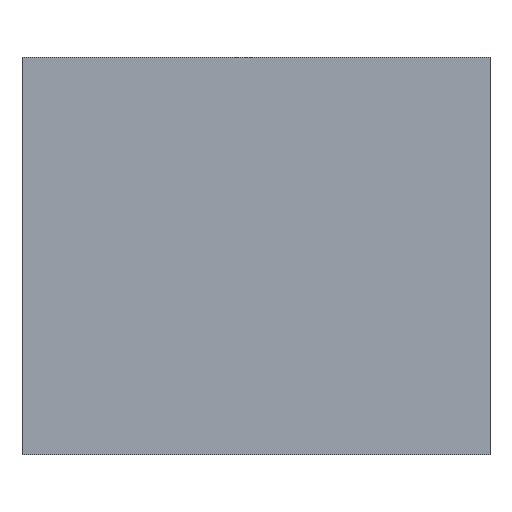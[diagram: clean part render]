
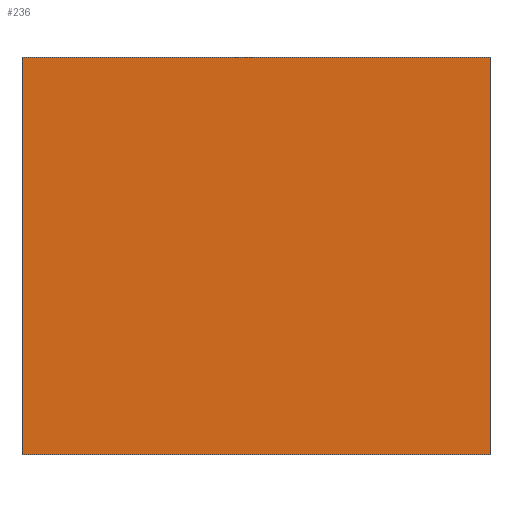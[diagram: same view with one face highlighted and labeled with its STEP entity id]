
A CAD part, top view. The second image highlights one B-rep face of the part: STEP entity #236.
In plain terms, the highlighted planar face has unit normal (0, 0, 1).
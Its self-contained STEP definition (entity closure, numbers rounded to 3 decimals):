
#9 = ORIENTED_EDGE ( 'NONE', *, *, #59, .T. ) ;
#12 = ORIENTED_EDGE ( 'NONE', *, *, #106, .T. ) ;
#14 = LINE ( 'NONE', #150, #104 ) ;
#17 = DIRECTION ( 'NONE',  ( 0., 1., 0. ) ) ;
#25 = VERTEX_POINT ( 'NONE', #223 ) ;
#27 = ORIENTED_EDGE ( 'NONE', *, *, #87, .T. ) ;
#44 = CARTESIAN_POINT ( 'NONE',  ( 20., -17., 0.19 ) ) ;
#58 = LINE ( 'NONE', #132, #204 ) ;
#59 = EDGE_CURVE ( 'NONE', #181, #76, #58, .T. ) ;
#62 = DIRECTION ( 'NONE',  ( 0., -1., 0. ) ) ;
#76 = VERTEX_POINT ( 'NONE', #44 ) ;
#83 = DIRECTION ( 'NONE',  ( 1., 0., 0. ) ) ;
#87 = EDGE_CURVE ( 'NONE', #227, #181, #168, .T. ) ;
#104 = VECTOR ( 'NONE', #172, 1000. ) ;
#106 = EDGE_CURVE ( 'NONE', #76, #25, #120, .T. ) ;
#112 = EDGE_LOOP ( 'NONE', ( #27, #9, #12, #183 ) ) ;
#120 = LINE ( 'NONE', #121, #199 ) ;
#121 = CARTESIAN_POINT ( 'NONE',  ( 20., 17., 0.19 ) ) ;
#122 = FACE_OUTER_BOUND ( 'NONE', #112, .T. ) ;
#132 = CARTESIAN_POINT ( 'NONE',  ( -20., -17., 0.19 ) ) ;
#137 = CARTESIAN_POINT ( 'NONE',  ( -20., -17., 0.19 ) ) ;
#150 = CARTESIAN_POINT ( 'NONE',  ( -20., 17., 0.19 ) ) ;
#151 = DIRECTION ( 'NONE',  ( 0., 0., 1. ) ) ;
#153 = PLANE ( 'NONE',  #163 ) ;
#163 = AXIS2_PLACEMENT_3D ( 'NONE', #190, #151, #83 ) ;
#168 = LINE ( 'NONE', #235, #182 ) ;
#172 = DIRECTION ( 'NONE',  ( -1., 0., 0. ) ) ;
#180 = DIRECTION ( 'NONE',  ( 1., 0., 0. ) ) ;
#181 = VERTEX_POINT ( 'NONE', #137 ) ;
#182 = VECTOR ( 'NONE', #62, 1000. ) ;
#183 = ORIENTED_EDGE ( 'NONE', *, *, #197, .T. ) ;
#190 = CARTESIAN_POINT ( 'NONE',  ( 0., 0., 0.19 ) ) ;
#197 = EDGE_CURVE ( 'NONE', #25, #227, #14, .T. ) ;
#199 = VECTOR ( 'NONE', #17, 1000. ) ;
#204 = VECTOR ( 'NONE', #180, 1000. ) ;
#214 = CARTESIAN_POINT ( 'NONE',  ( -20., 17., 0.19 ) ) ;
#223 = CARTESIAN_POINT ( 'NONE',  ( 20., 17., 0.19 ) ) ;
#227 = VERTEX_POINT ( 'NONE', #214 ) ;
#235 = CARTESIAN_POINT ( 'NONE',  ( -20., 17., 0.19 ) ) ;
#236 = ADVANCED_FACE ( 'NONE', ( #122 ), #153, .T. ) ;
